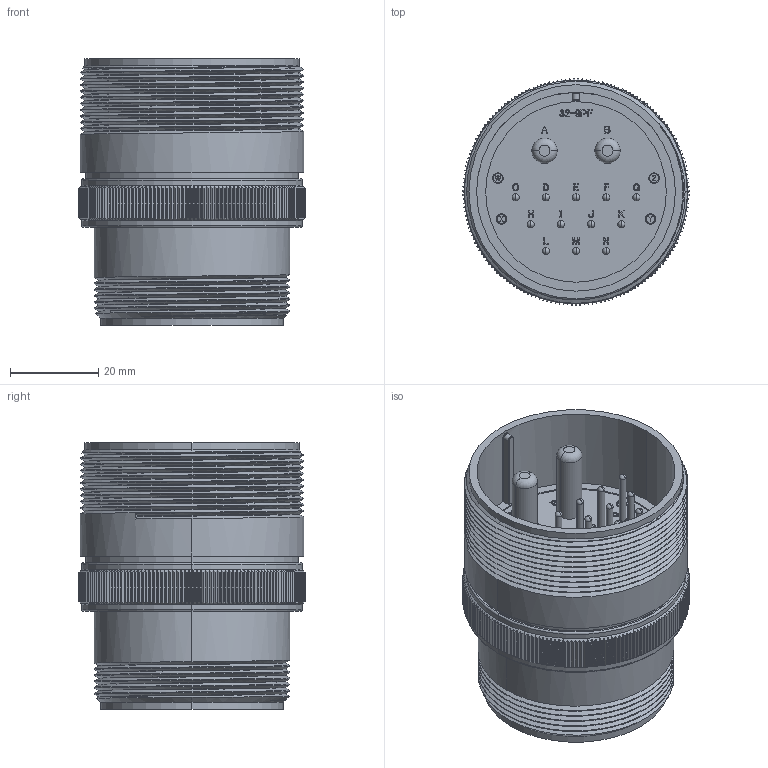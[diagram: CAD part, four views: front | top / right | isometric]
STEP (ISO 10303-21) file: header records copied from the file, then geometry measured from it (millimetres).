
FILE_DESCRIPTION (( 'STEP AP203' ), '1' );
FILE_NAME ('DMS3101A32-9P.STEP', '2017-11-17T00:43:40', ( '' ), ( '' ), 'SwSTEP 2.0', 'SolidWorks 2015', '' );
FILE_SCHEMA (( 'CONFIG_CONTROL_DESIGN' ));
Length unit declared in the file: millimetre
Products named in the file (1): DMS3101A32-9P
Bounding box: 51.4 x 51.4 x 60.56 mm (x, y, z)
Volume: 45462 mm3; surface area: 29156.6 mm2
Topology: 1 solids, 1 shells, 2251 faces, 6311 edges, 4140 vertices
Faces by surface type: cylinder 1101, plane 858, bspline 209, cone 38, sphere 24, torus 21
Entity records: 89881 total; most frequent: CARTESIAN_POINT 36874, ORIENTED_EDGE 12572, DIRECTION 8755, EDGE_CURVE 6286, VERTEX_POINT 4140, AXIS2_PLACEMENT_3D 2928, VECTOR 2899, LINE 2899
